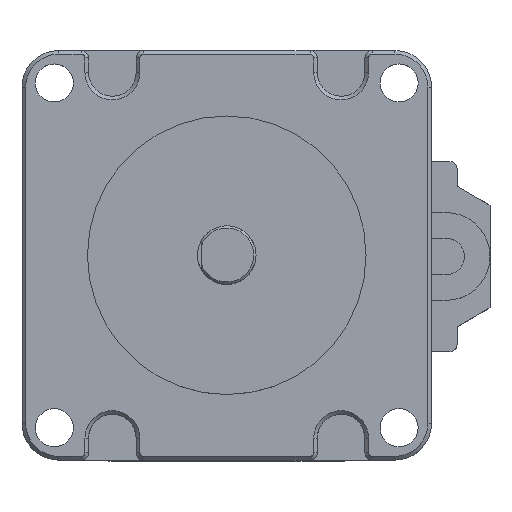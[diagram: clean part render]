
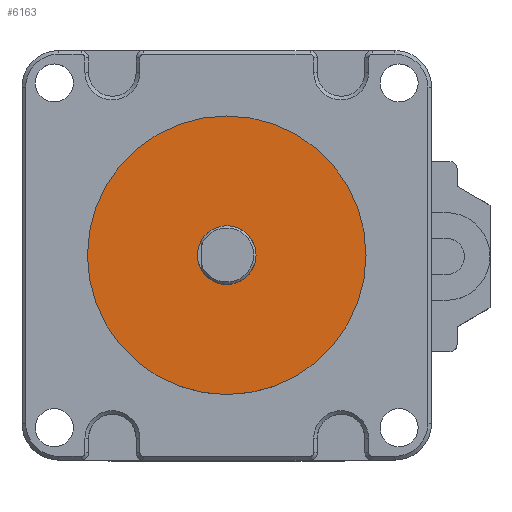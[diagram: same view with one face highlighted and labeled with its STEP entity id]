
A CAD part, top view. The second image highlights one B-rep face of the part: STEP entity #6163.
In plain terms, the highlighted planar face has unit normal (0, 0, 1).
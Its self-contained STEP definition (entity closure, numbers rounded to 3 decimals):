
#9=CARTESIAN_POINT('',(28.,28.,56.6));
#10=DIRECTION('',(0.,0.,-1.));
#11=DIRECTION('',(-1.,0.,0.));
#12=AXIS2_PLACEMENT_3D('',#9,#10,#11);
#14=CARTESIAN_POINT('',(28.,28.,56.6));
#15=DIRECTION('',(0.,0.,-1.));
#16=DIRECTION('',(1.,0.,0.));
#17=AXIS2_PLACEMENT_3D('',#14,#15,#16);
#19=CARTESIAN_POINT('',(28.,28.,56.6));
#20=DIRECTION('',(0.,0.,1.));
#21=DIRECTION('',(1.,0.,0.));
#22=AXIS2_PLACEMENT_3D('',#19,#20,#21);
#24=CARTESIAN_POINT('',(28.,28.,56.6));
#25=DIRECTION('',(0.,0.,1.));
#26=DIRECTION('',(-1.,0.,0.));
#27=AXIS2_PLACEMENT_3D('',#24,#25,#26);
#5279=CARTESIAN_POINT('',(32.,28.,56.6));
#5280=CARTESIAN_POINT('',(24.,28.,56.6));
#5281=VERTEX_POINT('',#5279);
#5282=VERTEX_POINT('',#5280);
#5287=CARTESIAN_POINT('',(8.95,28.,56.6));
#5288=CARTESIAN_POINT('',(47.05,28.,56.6));
#5289=VERTEX_POINT('',#5287);
#5290=VERTEX_POINT('',#5288);
#6147=CARTESIAN_POINT('',(0.,0.,56.6));
#6148=DIRECTION('',(0.,0.,1.));
#6149=DIRECTION('',(1.,0.,0.));
#6150=AXIS2_PLACEMENT_3D('',#6147,#6148,#6149);
#6151=PLANE('',#6150);
#6153=ORIENTED_EDGE('',*,*,#6152,.T.);
#6155=ORIENTED_EDGE('',*,*,#6154,.T.);
#6156=EDGE_LOOP('',(#6153,#6155));
#6157=FACE_OUTER_BOUND('',#6156,.F.);
#6158=ORIENTED_EDGE('',*,*,#6132,.T.);
#6160=ORIENTED_EDGE('',*,*,#6159,.T.);
#6161=EDGE_LOOP('',(#6158,#6160));
#6162=FACE_BOUND('',#6161,.F.);
#6163=ADVANCED_FACE('',(#6157,#6162),#6151,.T.);
#13=CIRCLE('',#12,19.05);
#18=CIRCLE('',#17,19.05);
#23=CIRCLE('',#22,4.);
#28=CIRCLE('',#27,4.);
#6132=EDGE_CURVE('',#5281,#5282,#23,.T.);
#6152=EDGE_CURVE('',#5289,#5290,#13,.T.);
#6154=EDGE_CURVE('',#5290,#5289,#18,.T.);
#6159=EDGE_CURVE('',#5282,#5281,#28,.T.);
